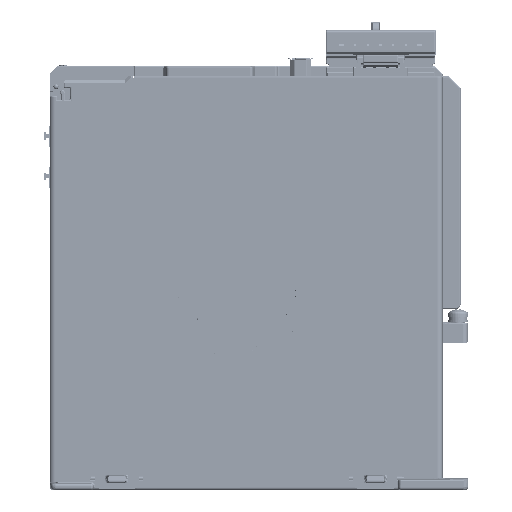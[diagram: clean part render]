
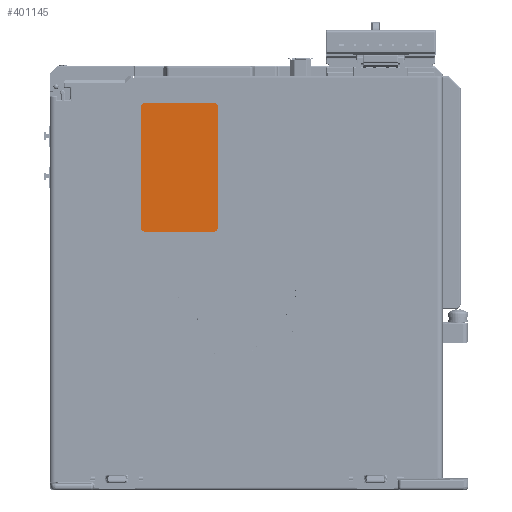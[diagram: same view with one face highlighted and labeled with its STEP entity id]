
A CAD part, left-side view. The second image highlights one B-rep face of the part: STEP entity #401145.
In plain terms, the highlighted planar face has unit normal (-1, 0, 0) as drawn and (0, 0, 1) by its records, which use the part's own axes.
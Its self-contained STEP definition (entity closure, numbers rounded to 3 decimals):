
#25019=PLANE('',#425490);
#43236=FACE_OUTER_BOUND('',#66319,.T.);
#66319=EDGE_LOOP('',(#342602,#342603,#342604,#342605,#342606,#342607,#342608,
#342609));
#103926=LINE('',#643233,#148433);
#103931=LINE('',#643247,#148438);
#103935=LINE('',#643259,#148442);
#103939=LINE('',#643271,#148446);
#148433=VECTOR('',#495495,10.);
#148438=VECTOR('',#495508,10.);
#148442=VECTOR('',#495520,10.);
#148446=VECTOR('',#495532,10.);
#167570=CIRCLE('',#425475,2.);
#167572=CIRCLE('',#425479,2.);
#167574=CIRCLE('',#425483,2.);
#167576=CIRCLE('',#425487,2.);
#196481=VERTEX_POINT('',#643231);
#196482=VERTEX_POINT('',#643232);
#196485=VERTEX_POINT('',#643240);
#196487=VERTEX_POINT('',#643246);
#196489=VERTEX_POINT('',#643252);
#196491=VERTEX_POINT('',#643258);
#196493=VERTEX_POINT('',#643264);
#196495=VERTEX_POINT('',#643270);
#247787=EDGE_CURVE('',#196481,#196482,#103926,.T.);
#247791=EDGE_CURVE('',#196482,#196485,#167570,.T.);
#247794=EDGE_CURVE('',#196485,#196487,#103931,.T.);
#247797=EDGE_CURVE('',#196487,#196489,#167572,.T.);
#247800=EDGE_CURVE('',#196489,#196491,#103935,.T.);
#247803=EDGE_CURVE('',#196491,#196493,#167574,.T.);
#247806=EDGE_CURVE('',#196493,#196495,#103939,.T.);
#247809=EDGE_CURVE('',#196495,#196481,#167576,.T.);
#342602=ORIENTED_EDGE('',*,*,#247787,.F.);
#342603=ORIENTED_EDGE('',*,*,#247809,.F.);
#342604=ORIENTED_EDGE('',*,*,#247806,.F.);
#342605=ORIENTED_EDGE('',*,*,#247803,.F.);
#342606=ORIENTED_EDGE('',*,*,#247800,.F.);
#342607=ORIENTED_EDGE('',*,*,#247797,.F.);
#342608=ORIENTED_EDGE('',*,*,#247794,.F.);
#342609=ORIENTED_EDGE('',*,*,#247791,.F.);
#401145=ADVANCED_FACE('',(#43236),#25019,.T.);
#425475=AXIS2_PLACEMENT_3D('',#643241,#495501,#495502);
#425479=AXIS2_PLACEMENT_3D('',#643253,#495513,#495514);
#425483=AXIS2_PLACEMENT_3D('',#643265,#495525,#495526);
#425487=AXIS2_PLACEMENT_3D('',#643276,#495537,#495538);
#425490=AXIS2_PLACEMENT_3D('',#643279,#495543,#495544);
#495495=DIRECTION('',(0.,-1.,0.));
#495501=DIRECTION('center_axis',(0.,0.,-1.));
#495502=DIRECTION('ref_axis',(0.,-1.,0.));
#495508=DIRECTION('',(-1.,0.,0.));
#495513=DIRECTION('center_axis',(0.,0.,-1.));
#495514=DIRECTION('ref_axis',(-1.,0.,0.));
#495520=DIRECTION('',(0.,1.,0.));
#495525=DIRECTION('center_axis',(0.,0.,-1.));
#495526=DIRECTION('ref_axis',(0.,1.,0.));
#495532=DIRECTION('',(1.,0.,0.));
#495537=DIRECTION('center_axis',(0.,0.,-1.));
#495538=DIRECTION('ref_axis',(1.,0.,0.));
#495543=DIRECTION('center_axis',(0.,0.,1.));
#495544=DIRECTION('ref_axis',(1.,0.,0.));
#643231=CARTESIAN_POINT('',(28.,7.,0.1));
#643232=CARTESIAN_POINT('',(28.,-19.,0.1));
#643233=CARTESIAN_POINT('',(28.,-19.,0.1));
#643240=CARTESIAN_POINT('',(26.,-21.,0.1));
#643241=CARTESIAN_POINT('Origin',(26.,-19.,0.1));
#643246=CARTESIAN_POINT('',(-20.,-21.,0.1));
#643247=CARTESIAN_POINT('',(-20.,-21.,0.1));
#643252=CARTESIAN_POINT('',(-22.,-19.,0.1));
#643253=CARTESIAN_POINT('Origin',(-20.,-19.,0.1));
#643258=CARTESIAN_POINT('',(-22.,7.,0.1));
#643259=CARTESIAN_POINT('',(-22.,7.,0.1));
#643264=CARTESIAN_POINT('',(-20.,9.,0.1));
#643265=CARTESIAN_POINT('Origin',(-20.,7.,0.1));
#643270=CARTESIAN_POINT('',(26.,9.,0.1));
#643271=CARTESIAN_POINT('',(26.,9.,0.1));
#643276=CARTESIAN_POINT('Origin',(26.,7.,0.1));
#643279=CARTESIAN_POINT('Origin',(3.,-6.,0.1));
